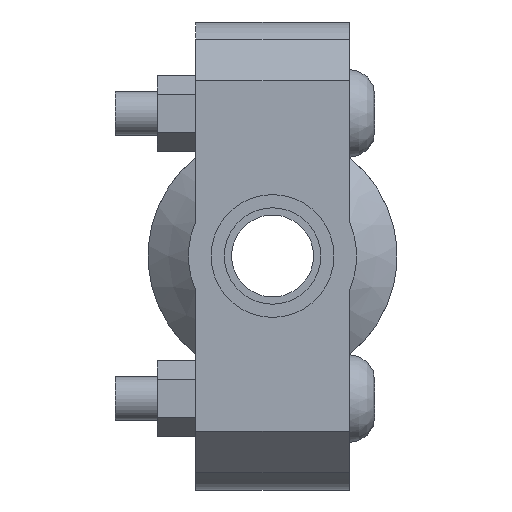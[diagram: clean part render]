
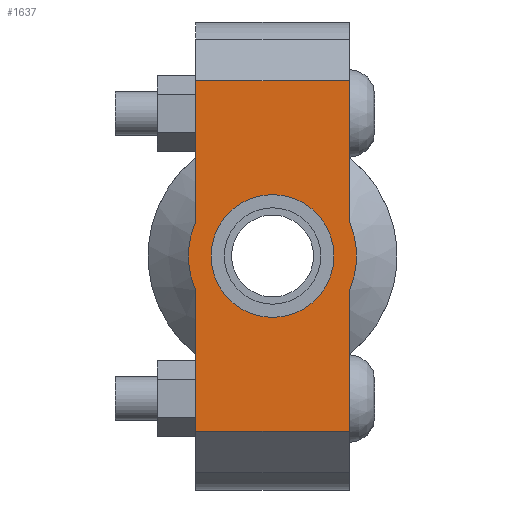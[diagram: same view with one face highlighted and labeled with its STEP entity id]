
A CAD part, left-side view. The second image highlights one B-rep face of the part: STEP entity #1637.
In plain terms, the highlighted planar face has unit normal (-1, 0, 0) as drawn and (0, 0, 1) by its records, which use the part's own axes.
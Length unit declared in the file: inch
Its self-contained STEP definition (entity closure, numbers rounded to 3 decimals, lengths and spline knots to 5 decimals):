
#192=LINE('',#2831,#289);
#207=LINE('',#2890,#304);
#215=LINE('',#2920,#312);
#217=LINE('',#2923,#314);
#218=LINE('',#2928,#315);
#219=LINE('',#2929,#316);
#289=VECTOR('',#2299,0.3937);
#304=VECTOR('',#2334,0.3937);
#312=VECTOR('',#2354,0.3937);
#314=VECTOR('',#2358,0.3937);
#315=VECTOR('',#2363,0.3937);
#316=VECTOR('',#2364,0.3937);
#380=FACE_BOUND('',#557,.T.);
#448=FACE_OUTER_BOUND('',#556,.T.);
#556=EDGE_LOOP('',(#1338,#1339,#1340,#1341,#1342,#1343,#1344,#1345));
#557=EDGE_LOOP('',(#1346));
#639=CIRCLE('',#1865,0.525);
#663=CIRCLE('',#1917,0.719);
#664=CIRCLE('',#1918,0.719);
#735=VERTEX_POINT('',#2657);
#776=VERTEX_POINT('',#2828);
#777=VERTEX_POINT('',#2830);
#798=VERTEX_POINT('',#2885);
#799=VERTEX_POINT('',#2889);
#808=VERTEX_POINT('',#2915);
#809=VERTEX_POINT('',#2919);
#810=VERTEX_POINT('',#2925);
#811=VERTEX_POINT('',#2927);
#899=EDGE_CURVE('',#735,#735,#639,.T.);
#956=EDGE_CURVE('',#777,#776,#192,.T.);
#981=EDGE_CURVE('',#799,#798,#207,.T.);
#994=EDGE_CURVE('',#809,#808,#215,.T.);
#996=EDGE_CURVE('',#809,#776,#217,.T.);
#997=EDGE_CURVE('',#808,#810,#663,.T.);
#998=EDGE_CURVE('',#810,#811,#218,.T.);
#999=EDGE_CURVE('',#799,#811,#219,.T.);
#1000=EDGE_CURVE('',#798,#777,#664,.T.);
#1338=ORIENTED_EDGE('',*,*,#996,.F.);
#1339=ORIENTED_EDGE('',*,*,#994,.T.);
#1340=ORIENTED_EDGE('',*,*,#997,.T.);
#1341=ORIENTED_EDGE('',*,*,#998,.T.);
#1342=ORIENTED_EDGE('',*,*,#999,.F.);
#1343=ORIENTED_EDGE('',*,*,#981,.T.);
#1344=ORIENTED_EDGE('',*,*,#1000,.T.);
#1345=ORIENTED_EDGE('',*,*,#956,.T.);
#1346=ORIENTED_EDGE('',*,*,#899,.T.);
#1477=PLANE('',#1916);
#1637=ADVANCED_FACE('',(#448,#380),#1477,.T.);
#1865=AXIS2_PLACEMENT_3D('',#2659,#2189,#2190);
#1916=AXIS2_PLACEMENT_3D('',#2924,#2359,#2360);
#1917=AXIS2_PLACEMENT_3D('',#2926,#2361,#2362);
#1918=AXIS2_PLACEMENT_3D('',#2930,#2365,#2366);
#2189=DIRECTION('center_axis',(0.,0.,-1.));
#2190=DIRECTION('ref_axis',(-1.,0.,0.));
#2299=DIRECTION('',(-1.,0.,0.));
#2334=DIRECTION('',(-1.,0.,0.));
#2354=DIRECTION('',(1.,0.,0.));
#2358=DIRECTION('',(0.,1.,0.));
#2359=DIRECTION('center_axis',(0.,0.,1.));
#2360=DIRECTION('ref_axis',(1.,0.,0.));
#2361=DIRECTION('center_axis',(0.,0.,1.));
#2362=DIRECTION('ref_axis',(-1.,0.,0.));
#2363=DIRECTION('',(1.,0.,0.));
#2364=DIRECTION('',(0.,-1.,0.));
#2365=DIRECTION('center_axis',(0.,0.,1.));
#2366=DIRECTION('ref_axis',(-1.,0.,0.));
#2657=CARTESIAN_POINT('',(0.525,0.,0.875));
#2659=CARTESIAN_POINT('Origin',(0.,0.,0.875));
#2828=CARTESIAN_POINT('',(-1.5,0.656,0.875));
#2830=CARTESIAN_POINT('',(-0.29432,0.656,0.875));
#2831=CARTESIAN_POINT('',(2.,0.656,0.875));
#2885=CARTESIAN_POINT('',(0.29432,0.656,0.875));
#2889=CARTESIAN_POINT('',(1.5,0.656,0.875));
#2890=CARTESIAN_POINT('',(2.,0.656,0.875));
#2915=CARTESIAN_POINT('',(-0.29432,-0.656,0.875));
#2919=CARTESIAN_POINT('',(-1.5,-0.656,0.875));
#2920=CARTESIAN_POINT('',(-2.,-0.656,0.875));
#2923=CARTESIAN_POINT('',(-1.5,0.328,0.875));
#2924=CARTESIAN_POINT('Origin',(0.,0.,
0.875));
#2925=CARTESIAN_POINT('',(0.29432,-0.656,0.875));
#2926=CARTESIAN_POINT('Origin',(0.,0.,0.875));
#2927=CARTESIAN_POINT('',(1.5,-0.656,0.875));
#2928=CARTESIAN_POINT('',(-2.,-0.656,0.875));
#2929=CARTESIAN_POINT('',(1.5,-0.328,0.875));
#2930=CARTESIAN_POINT('Origin',(0.,0.,0.875));
